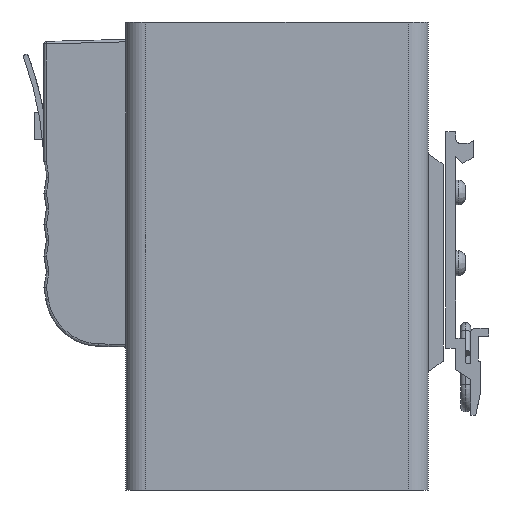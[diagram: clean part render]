
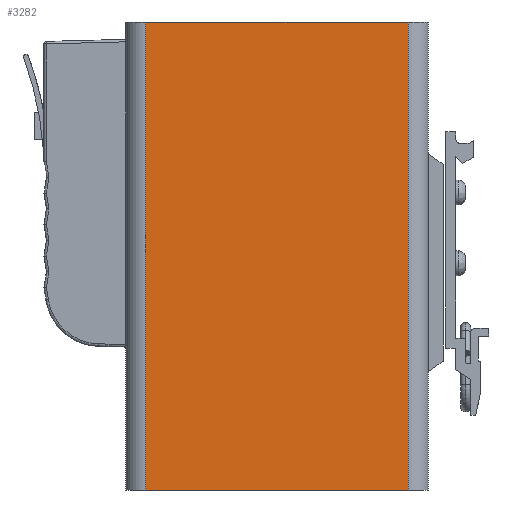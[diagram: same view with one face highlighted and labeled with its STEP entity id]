
A CAD part, left-side view. The second image highlights one B-rep face of the part: STEP entity #3282.
In plain terms, the highlighted planar face has unit normal (-1, 0, 0).
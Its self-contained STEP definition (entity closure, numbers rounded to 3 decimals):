
#800 = ORIENTED_EDGE ( 'NONE', *, *, #35425, .F. ) ;
#2261 = EDGE_CURVE ( 'NONE', #10606, #25773, #9583, .T. ) ;
#3282 = ADVANCED_FACE ( 'NONE', ( #42346 ), #24162, .F. ) ;
#4358 = EDGE_CURVE ( 'NONE', #44253, #11009, #42576, .T. ) ;
#4918 = CARTESIAN_POINT ( 'NONE',  ( 49.6, -23.128, -71. ) ) ;
#5746 = LINE ( 'NONE', #16150, #21741 ) ;
#9524 = ORIENTED_EDGE ( 'NONE', *, *, #31941, .T. ) ;
#9583 = LINE ( 'NONE', #37217, #10345 ) ;
#10345 = VECTOR ( 'NONE', #37688, 1000. ) ;
#10543 = ORIENTED_EDGE ( 'NONE', *, *, #4358, .F. ) ;
#10606 = VERTEX_POINT ( 'NONE', #19184 ) ;
#11009 = VERTEX_POINT ( 'NONE', #12912 ) ;
#12258 = EDGE_LOOP ( 'NONE', ( #9524, #42838, #800, #10543 ) ) ;
#12437 = VECTOR ( 'NONE', #28303, 1000. ) ;
#12912 = CARTESIAN_POINT ( 'NONE',  ( 49.6, 29.672, -89.2 ) ) ;
#14430 = CARTESIAN_POINT ( 'NONE',  ( 49.6, -23.128, -89.2 ) ) ;
#15020 = VECTOR ( 'NONE', #43660, 1000. ) ;
#15573 = CARTESIAN_POINT ( 'NONE',  ( 49.6, 29.672, 4.8 ) ) ;
#16150 = CARTESIAN_POINT ( 'NONE',  ( 49.6, 29.672, -71. ) ) ;
#19184 = CARTESIAN_POINT ( 'NONE',  ( 49.6, -23.128, 4.8 ) ) ;
#20082 = DIRECTION ( 'NONE',  ( 0., 0., 1. ) ) ;
#21385 = CARTESIAN_POINT ( 'NONE',  ( 49.6, -23.128, -89.2 ) ) ;
#21741 = VECTOR ( 'NONE', #20082, 1000. ) ;
#24162 = PLANE ( 'NONE',  #41839 ) ;
#24842 = CARTESIAN_POINT ( 'NONE',  ( 49.6, -23.128, -71. ) ) ;
#25773 = VERTEX_POINT ( 'NONE', #15573 ) ;
#28303 = DIRECTION ( 'NONE',  ( 0., 1., 0. ) ) ;
#29591 = LINE ( 'NONE', #4918, #15020 ) ;
#31746 = DIRECTION ( 'NONE',  ( 1., 0., 0. ) ) ;
#31941 = EDGE_CURVE ( 'NONE', #44253, #10606, #29591, .T. ) ;
#35425 = EDGE_CURVE ( 'NONE', #11009, #25773, #5746, .T. ) ;
#37217 = CARTESIAN_POINT ( 'NONE',  ( 49.6, -23.128, 4.8 ) ) ;
#37688 = DIRECTION ( 'NONE',  ( 0., 1., 0. ) ) ;
#41660 = DIRECTION ( 'NONE',  ( 0., 1., 0. ) ) ;
#41839 = AXIS2_PLACEMENT_3D ( 'NONE', #24842, #31746, #41660 ) ;
#42346 = FACE_OUTER_BOUND ( 'NONE', #12258, .T. ) ;
#42576 = LINE ( 'NONE', #21385, #12437 ) ;
#42838 = ORIENTED_EDGE ( 'NONE', *, *, #2261, .T. ) ;
#43660 = DIRECTION ( 'NONE',  ( 0., 0., 1. ) ) ;
#44253 = VERTEX_POINT ( 'NONE', #14430 ) ;
